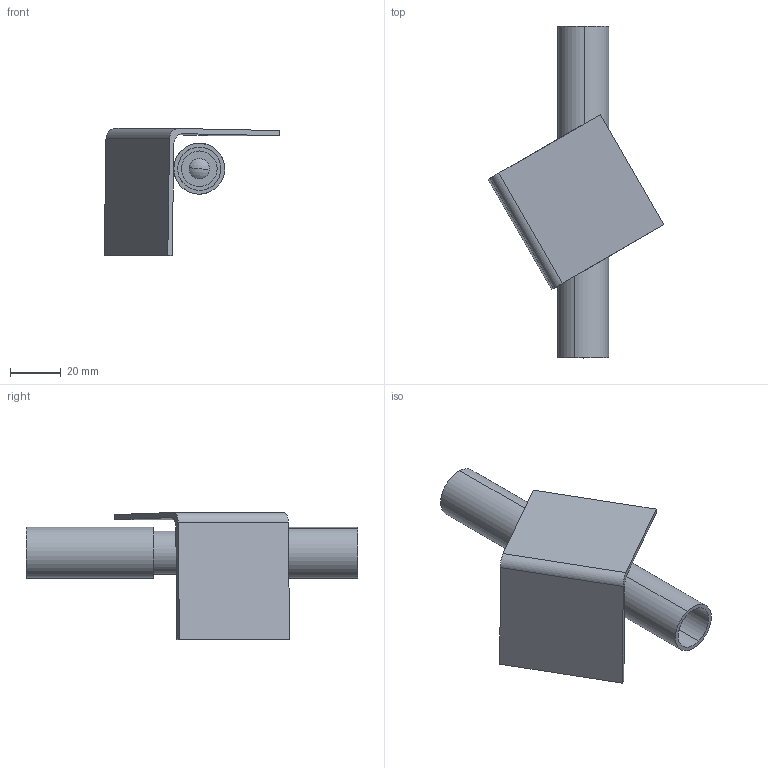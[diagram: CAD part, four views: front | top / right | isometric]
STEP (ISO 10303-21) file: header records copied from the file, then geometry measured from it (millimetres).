
FILE_DESCRIPTION (( 'STEP AP203' ), '1' );
FILE_NAME ('Assem1.STEP', '2020-03-30T07:14:08', ( '' ), ( '' ), 'SwSTEP 2.0', 'SolidWorks 2018', '' );
FILE_SCHEMA (( 'CONFIG_CONTROL_DESIGN' ));
Length unit declared in the file: millimetre
Products named in the file (7): Assem1; Tube; bracket; rubber seal; ball; interrupt; Syringe
Assembly tree (7 placements, depth 2):
  Assem1
    ball
    bracket
    rubber seal
    Syringe
    Tube  x2
    interrupt
Bounding box: 69.07 x 130.54 x 49.96 mm (x, y, z)
Volume: 23348 mm3; surface area: 28162.4 mm2
Topology: 7 solids, 7 shells, 47 faces, 103 edges, 69 vertices
Faces by surface type: plane 25, cylinder 20, sphere 2
Entity records: 1895 total; most frequent: DIRECTION 222, CARTESIAN_POINT 195, ORIENTED_EDGE 172, EDGE_CURVE 86, AXIS2_PLACEMENT_3D 85, PERSON_AND_ORGANIZATION 63, VERTEX_POINT 58, VECTOR 52
